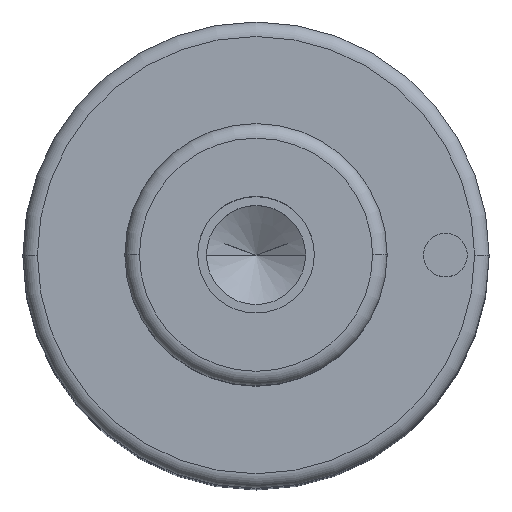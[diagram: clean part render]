
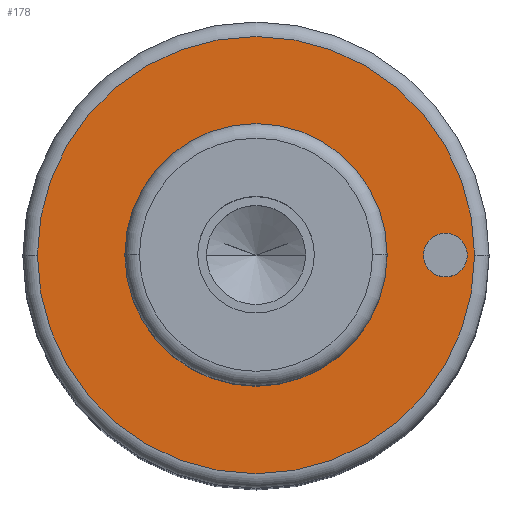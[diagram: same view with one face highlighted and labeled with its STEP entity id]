
A CAD part, top view. The second image highlights one B-rep face of the part: STEP entity #178.
In plain terms, the highlighted planar face has unit normal (0, 0, 1).
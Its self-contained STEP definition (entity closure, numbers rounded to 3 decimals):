
#105=PLANE('',#866);
#115=FACE_BOUND('',#283,.T.);
#116=FACE_BOUND('',#284,.T.);
#117=FACE_BOUND('',#285,.T.);
#178=ADVANCED_FACE('',(#115,#116,#117),#105,.T.);
#283=EDGE_LOOP('',(#473,#474));
#284=EDGE_LOOP('',(#475,#476));
#285=EDGE_LOOP('',(#477,#478));
#333=CIRCLE('',#834,9.);
#334=CIRCLE('',#836,9.);
#338=CIRCLE('',#841,15.);
#339=CIRCLE('',#843,15.);
#351=CIRCLE('',#864,1.5);
#352=CIRCLE('',#865,1.5);
#473=ORIENTED_EDGE('',*,*,#666,.F.);
#474=ORIENTED_EDGE('',*,*,#667,.F.);
#475=ORIENTED_EDGE('',*,*,#685,.F.);
#476=ORIENTED_EDGE('',*,*,#686,.F.);
#477=ORIENTED_EDGE('',*,*,#662,.T.);
#478=ORIENTED_EDGE('',*,*,#660,.T.);
#590=VERTEX_POINT('',#1233);
#591=VERTEX_POINT('',#1235);
#592=VERTEX_POINT('',#1241);
#595=VERTEX_POINT('',#1246);
#604=VERTEX_POINT('',#1285);
#605=VERTEX_POINT('',#1286);
#660=EDGE_CURVE('',#591,#590,#333,.T.);
#662=EDGE_CURVE('',#590,#591,#334,.T.);
#666=EDGE_CURVE('',#595,#592,#338,.T.);
#667=EDGE_CURVE('',#592,#595,#339,.T.);
#685=EDGE_CURVE('',#604,#605,#351,.T.);
#686=EDGE_CURVE('',#605,#604,#352,.T.);
#834=AXIS2_PLACEMENT_3D('',#1234,#985,#986);
#836=AXIS2_PLACEMENT_3D('',#1238,#990,#991);
#841=AXIS2_PLACEMENT_3D('',#1247,#1000,#1001);
#843=AXIS2_PLACEMENT_3D('',#1249,#1004,#1005);
#864=AXIS2_PLACEMENT_3D('',#1284,#1052,#1053);
#865=AXIS2_PLACEMENT_3D('',#1287,#1054,#1055);
#866=AXIS2_PLACEMENT_3D('',#1288,#1056,#1057);
#985=DIRECTION('',(0.,0.,-1.));
#986=DIRECTION('',(0.,1.,0.));
#990=DIRECTION('',(0.,0.,-1.));
#991=DIRECTION('',(0.,-1.,0.));
#1000=DIRECTION('',(0.,0.,-1.));
#1001=DIRECTION('',(0.,1.,0.));
#1004=DIRECTION('',(0.,0.,-1.));
#1005=DIRECTION('',(0.,-1.,0.));
#1052=DIRECTION('',(0.,0.,1.));
#1053=DIRECTION('',(0.,1.,0.));
#1054=DIRECTION('',(0.,0.,1.));
#1055=DIRECTION('',(0.,-1.,0.));
#1056=DIRECTION('',(0.,0.,1.));
#1057=DIRECTION('',(0.,-1.,0.));
#1233=CARTESIAN_POINT('',(-9.,0.,68.));
#1234=CARTESIAN_POINT('',(0.,0.,68.));
#1235=CARTESIAN_POINT('',(9.,0.,68.));
#1238=CARTESIAN_POINT('',(0.,0.,68.));
#1241=CARTESIAN_POINT('',(-15.,0.,68.));
#1246=CARTESIAN_POINT('',(15.,0.,68.));
#1247=CARTESIAN_POINT('',(0.,0.,68.));
#1249=CARTESIAN_POINT('',(0.,0.,68.));
#1284=CARTESIAN_POINT('',(13.,0.,68.));
#1285=CARTESIAN_POINT('',(11.5,0.,68.));
#1286=CARTESIAN_POINT('',(14.5,0.,68.));
#1287=CARTESIAN_POINT('',(13.,0.,68.));
#1288=CARTESIAN_POINT('',(0.,0.,68.));
